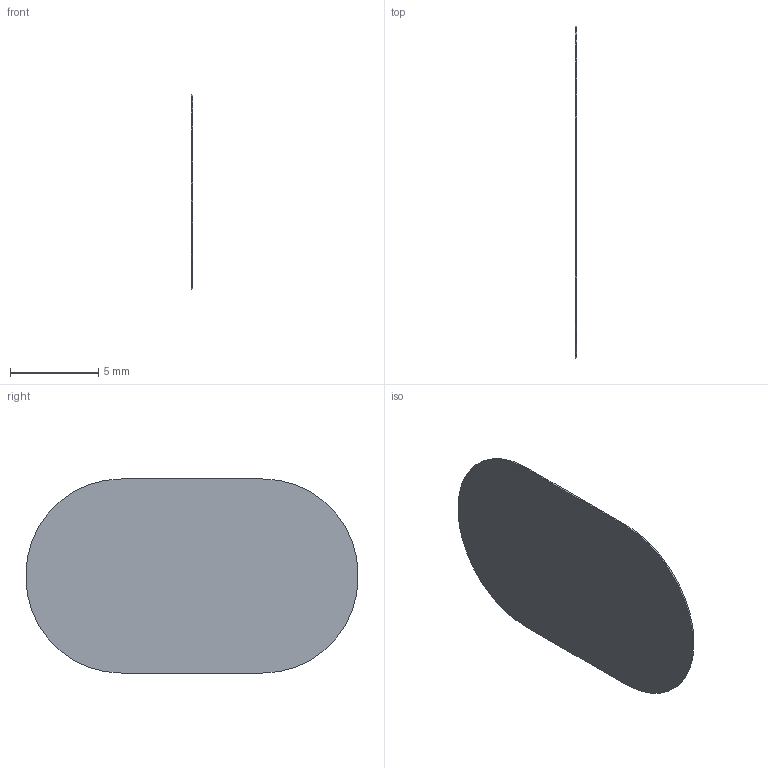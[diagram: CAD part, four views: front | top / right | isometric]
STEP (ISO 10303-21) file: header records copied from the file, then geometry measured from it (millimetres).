
FILE_DESCRIPTION(/* description */ (''),/* implementation_level */ '2;1');
FILE_NAME(/* name */ 'C27_R2_15_Volume_Down_Bond_Film.step',/* time_stamp */ '2026-09-10T17:48:36-07:00',/* author */ (''),/* organization */ (''),/* preprocessor_version */ 'ST-DEVELOPER v20.1',/* originating_system */ 'Autodesk Translation Framework v15.8.0.0',/* authorisation */ '');
FILE_SCHEMA (('AUTOMOTIVE_DESIGN { 1 0 10303 214 3 1 1 }'));
Length unit declared in the file: millimetre
Products named in the file (1): 2026-09-10-17-48-36-513
Bounding box: 0.1 x 18.78 x 10.98 mm (x, y, z)
Volume: 18.1 mm3; surface area: 366.8 mm2
Topology: 1 solids, 1 shells, 10 faces, 24 edges, 16 vertices
Faces by surface type: cylinder 4, torus 4, plane 2
Entity records: 337 total; most frequent: DIRECTION 62, CARTESIAN_POINT 51, ORIENTED_EDGE 48, AXIS2_PLACEMENT_3D 27, EDGE_CURVE 24, CIRCLE 16, VERTEX_POINT 16, FACE_OUTER_BOUND 10
